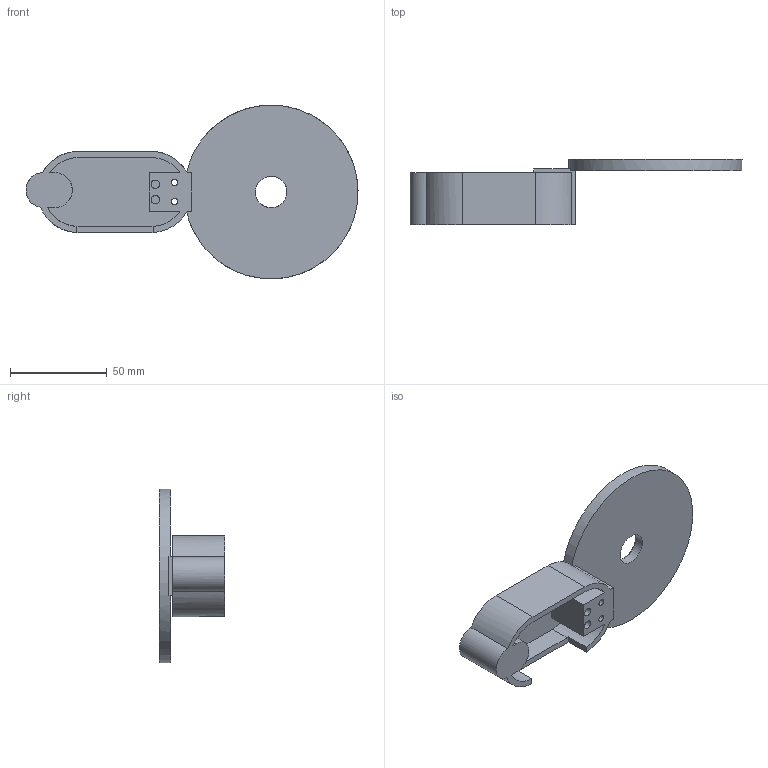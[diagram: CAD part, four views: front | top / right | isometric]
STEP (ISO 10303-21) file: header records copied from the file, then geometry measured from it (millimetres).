
FILE_DESCRIPTION(('Base splice and hand/dowel native rebuild. P1 head/arm retained as imported base geometry.'),'2;1');
FILE_NAME('R_WRAP_HAND_REAR.step','',(''),(''),'SolidCraft','SolidCraft','');
FILE_SCHEMA(('AP242_MANAGED_MODEL_BASED_3D_ENGINEERING_MIM_LF { 1 0 10303 442 1 1 4 }'));
Length unit declared in the file: millimetre
Products named in the file (1): R_WRAP_HAND_REAR
Bounding box: 171.98 x 34 x 89.98 mm (x, y, z)
Volume: 76395.8 mm3; surface area: 31685.4 mm2
Topology: 1 solids, 1 shells, 42 faces, 131 edges, 94 vertices
Faces by surface type: plane 25, cylinder 17
Full cylindrical faces by diameter (mm): 3.4 x2, 4.4 x2, 16.3 x1, 18.2 x1, 90 x1
Entity records: 1365 total; most frequent: CARTESIAN_POINT 414, ORIENTED_EDGE 262, EDGE_CURVE 131, VERTEX_POINT 94, DIRECTION 89, LINE 71, EDGE_LOOP 51, FACE_BOUND 51
